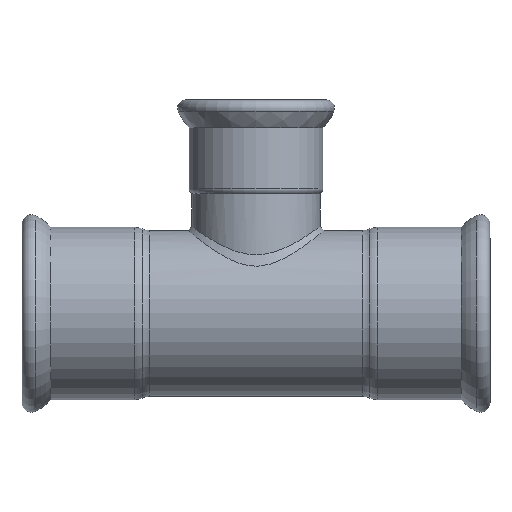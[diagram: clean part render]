
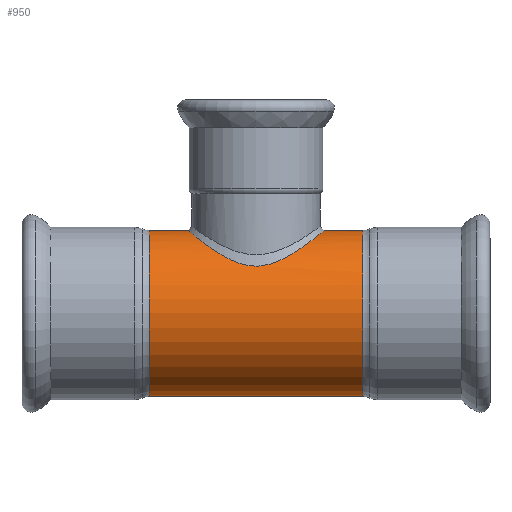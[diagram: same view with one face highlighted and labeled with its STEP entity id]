
A CAD part, front view. The second image highlights one B-rep face of the part: STEP entity #950.
In plain terms, the highlighted cylindrical face has radius 69.85 mm (diameter 139.7 mm), a full revolution.
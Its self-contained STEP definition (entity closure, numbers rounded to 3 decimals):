
#16=FACE_BOUND('',#177,.T.);
#22=B_SPLINE_CURVE_WITH_KNOTS('',3,(#1864,#1865,#1866,#1867,#1868,#1869,
#1870,#1871,#1872,#1873,#1874,#1875,#1876,#1877,#1878,#1879,#1880,#1881,
#1882,#1883,#1884,#1885,#1886,#1887,#1888,#1889,#1890,#1891,#1892,#1893,
#1894,#1895,#1896,#1897,#1898,#1899,#1900,#1901,#1902,#1903,#1904,#1905,
#1906,#1907,#1908,#1909,#1910,#1911,#1912,#1913,#1914,#1915,#1916,#1917,
#1918,#1919,#1920,#1921,#1922,#1923,#1924),.UNSPECIFIED.,.F.,.F.,(4,1,1,
1,2,2,1,1,2,2,2,1,2,2,1,1,2,1,2,1,2,1,1,2,1,2,1,2,1,1,2,2,1,2,2,2,1,1,2,
4),(-0.955,-0.952,-0.944,-0.933,
-0.91,-0.862,-0.839,-0.827,
-0.815,-0.766,-0.718,-0.694,
-0.67,-0.621,-0.597,-0.585,
-0.573,-0.561,-0.525,-0.49,
-0.478,-0.455,-0.444,-0.432,
-0.409,-0.385,-0.349,-0.337,
-0.325,-0.313,-0.29,-0.241,
-0.217,-0.193,-0.144,-0.095,
-0.083,-0.072,-0.048,0.),
 .UNSPECIFIED.);
#23=B_SPLINE_CURVE_WITH_KNOTS('',3,(#1925,#1926,#1927,#1928,#1929,#1930,
#1931),.UNSPECIFIED.,.F.,.F.,(4,3,4),(0.,0.022,0.045),
 .UNSPECIFIED.);
#54=LINE('',#2609,#75);
#75=VECTOR('',#1443,69.85);
#91=CYLINDRICAL_SURFACE('',#1118,69.85);
#131=FACE_OUTER_BOUND('',#176,.T.);
#176=EDGE_LOOP('',(#834,#835,#836,#837,#838,#839,#840,#841));
#177=EDGE_LOOP('',(#842,#843));
#263=CIRCLE('',#1076,69.85);
#264=CIRCLE('',#1077,69.85);
#265=CIRCLE('',#1078,69.85);
#292=CIRCLE('',#1115,69.85);
#293=CIRCLE('',#1116,69.85);
#294=CIRCLE('',#1117,69.85);
#347=VERTEX_POINT('',#1862);
#348=VERTEX_POINT('',#1863);
#386=VERTEX_POINT('',#2536);
#387=VERTEX_POINT('',#2538);
#388=VERTEX_POINT('',#2540);
#409=VERTEX_POINT('',#2601);
#410=VERTEX_POINT('',#2603);
#411=VERTEX_POINT('',#2605);
#470=EDGE_CURVE('',#347,#348,#22,.T.);
#471=EDGE_CURVE('',#348,#347,#23,.T.);
#526=EDGE_CURVE('',#386,#387,#263,.T.);
#527=EDGE_CURVE('',#387,#388,#264,.T.);
#528=EDGE_CURVE('',#388,#386,#265,.T.);
#558=EDGE_CURVE('',#410,#409,#292,.T.);
#559=EDGE_CURVE('',#411,#410,#293,.T.);
#560=EDGE_CURVE('',#409,#411,#294,.T.);
#561=EDGE_CURVE('',#387,#411,#54,.T.);
#834=ORIENTED_EDGE('',*,*,#528,.F.);
#835=ORIENTED_EDGE('',*,*,#527,.F.);
#836=ORIENTED_EDGE('',*,*,#561,.T.);
#837=ORIENTED_EDGE('',*,*,#559,.T.);
#838=ORIENTED_EDGE('',*,*,#558,.T.);
#839=ORIENTED_EDGE('',*,*,#560,.T.);
#840=ORIENTED_EDGE('',*,*,#561,.F.);
#841=ORIENTED_EDGE('',*,*,#526,.F.);
#842=ORIENTED_EDGE('',*,*,#470,.T.);
#843=ORIENTED_EDGE('',*,*,#471,.T.);
#950=ADVANCED_FACE('',(#131,#16),#91,.T.);
#1076=AXIS2_PLACEMENT_3D('',#2539,#1354,#1355);
#1077=AXIS2_PLACEMENT_3D('',#2541,#1356,#1357);
#1078=AXIS2_PLACEMENT_3D('',#2542,#1358,#1359);
#1115=AXIS2_PLACEMENT_3D('',#2604,#1435,#1436);
#1116=AXIS2_PLACEMENT_3D('',#2606,#1437,#1438);
#1117=AXIS2_PLACEMENT_3D('',#2607,#1439,#1440);
#1118=AXIS2_PLACEMENT_3D('',#2608,#1441,#1442);
#1354=DIRECTION('center_axis',(-1.,0.,0.));
#1355=DIRECTION('ref_axis',(0.,0.,-1.));
#1356=DIRECTION('center_axis',(-1.,0.,0.));
#1357=DIRECTION('ref_axis',(0.,0.,-1.));
#1358=DIRECTION('center_axis',(-1.,0.,0.));
#1359=DIRECTION('ref_axis',(0.,0.,-1.));
#1435=DIRECTION('center_axis',(-1.,0.,0.));
#1436=DIRECTION('ref_axis',(0.,0.,-1.));
#1437=DIRECTION('center_axis',(-1.,0.,0.));
#1438=DIRECTION('ref_axis',(0.,0.,-1.));
#1439=DIRECTION('center_axis',(-1.,0.,0.));
#1440=DIRECTION('ref_axis',(0.,0.,-1.));
#1441=DIRECTION('center_axis',(-1.,0.,0.));
#1442=DIRECTION('ref_axis',(0.,1.,0.));
#1443=DIRECTION('',(1.,0.,0.));
#1862=CARTESIAN_POINT('',(0.,-57.363,39.856));
#1863=CARTESIAN_POINT('',(18.172,-54.408,43.804));
#1864=CARTESIAN_POINT('Ctrl Pts',(0.001,-57.364,
39.854));
#1865=CARTESIAN_POINT('Ctrl Pts',(-0.416,-57.364,
39.854));
#1866=CARTESIAN_POINT('Ctrl Pts',(-2.088,-57.345,39.882));
#1867=CARTESIAN_POINT('Ctrl Pts',(-5.388,-57.164,40.141));
#1868=CARTESIAN_POINT('Ctrl Pts',(-11.365,-56.383,41.249));
#1869=CARTESIAN_POINT('Ctrl Pts',(-15.653,-55.25,42.758));
#1870=CARTESIAN_POINT('Ctrl Pts',(-23.554,-52.614,46.038));
#1871=CARTESIAN_POINT('Ctrl Pts',(-28.632,-50.004,48.958));
#1872=CARTESIAN_POINT('Ctrl Pts',(-35.247,-45.337,53.179));
#1873=CARTESIAN_POINT('Ctrl Pts',(-38.384,-42.768,55.306));
#1874=CARTESIAN_POINT('Ctrl Pts',(-42.028,-39.105,57.912));
#1875=CARTESIAN_POINT('Ctrl Pts',(-43.758,-37.115,59.186));
#1876=CARTESIAN_POINT('Ctrl Pts',(-47.985,-31.902,62.338));
#1877=CARTESIAN_POINT('Ctrl Pts',(-50.956,-26.973,64.678));
#1878=CARTESIAN_POINT('Ctrl Pts',(-55.324,-16.25,68.173));
#1879=CARTESIAN_POINT('Ctrl Pts',(-56.751,-10.285,69.349));
#1880=CARTESIAN_POINT('Ctrl Pts',(-57.414,-1.512,69.892));
#1881=CARTESIAN_POINT('Ctrl Pts',(-57.431,4.424,69.906));
#1882=CARTESIAN_POINT('Ctrl Pts',(-56.49,10.389,69.133));
#1883=CARTESIAN_POINT('Ctrl Pts',(-54.469,18.937,67.49));
#1884=CARTESIAN_POINT('Ctrl Pts',(-52.214,24.433,65.662));
#1885=CARTESIAN_POINT('Ctrl Pts',(-47.899,31.684,62.306));
#1886=CARTESIAN_POINT('Ctrl Pts',(-45.518,35.095,60.482));
#1887=CARTESIAN_POINT('Ctrl Pts',(-41.99,39.146,57.884));
#1888=CARTESIAN_POINT('Ctrl Pts',(-40.175,40.966,56.587));
#1889=CARTESIAN_POINT('Ctrl Pts',(-38.28,42.741,55.258));
#1890=CARTESIAN_POINT('Ctrl Pts',(-34.312,46.224,52.523));
#1891=CARTESIAN_POINT('Ctrl Pts',(-29.707,49.243,49.615));
#1892=CARTESIAN_POINT('Ctrl Pts',(-22.427,52.959,45.63));
#1893=CARTESIAN_POINT('Ctrl Pts',(-16.814,55.125,42.954));
#1894=CARTESIAN_POINT('Ctrl Pts',(-10.905,56.336,41.296));
#1895=CARTESIAN_POINT('Ctrl Pts',(-6.592,57.062,40.294));
#1896=CARTESIAN_POINT('Ctrl Pts',(-1.663,57.514,39.636));
#1897=CARTESIAN_POINT('Ctrl Pts',(4.965,57.213,40.073));
#1898=CARTESIAN_POINT('Ctrl Pts',(8.007,56.819,40.629));
#1899=CARTESIAN_POINT('Ctrl Pts',(12.377,56.092,41.633));
#1900=CARTESIAN_POINT('Ctrl Pts',(18.287,54.618,43.623));
#1901=CARTESIAN_POINT('Ctrl Pts',(23.629,52.34,46.292));
#1902=CARTESIAN_POINT('Ctrl Pts',(29.708,49.246,49.616));
#1903=CARTESIAN_POINT('Ctrl Pts',(34.311,46.222,52.524));
#1904=CARTESIAN_POINT('Ctrl Pts',(38.28,42.741,55.258));
#1905=CARTESIAN_POINT('Ctrl Pts',(40.175,40.966,56.587));
#1906=CARTESIAN_POINT('Ctrl Pts',(41.99,39.146,57.884));
#1907=CARTESIAN_POINT('Ctrl Pts',(45.518,35.095,60.482));
#1908=CARTESIAN_POINT('Ctrl Pts',(47.899,31.684,62.306));
#1909=CARTESIAN_POINT('Ctrl Pts',(52.214,24.433,65.662));
#1910=CARTESIAN_POINT('Ctrl Pts',(54.469,18.937,67.49));
#1911=CARTESIAN_POINT('Ctrl Pts',(56.49,10.389,69.133));
#1912=CARTESIAN_POINT('Ctrl Pts',(57.431,4.424,69.906));
#1913=CARTESIAN_POINT('Ctrl Pts',(57.414,-1.512,69.892));
#1914=CARTESIAN_POINT('Ctrl Pts',(56.751,-10.285,69.349));
#1915=CARTESIAN_POINT('Ctrl Pts',(55.324,-16.25,68.173));
#1916=CARTESIAN_POINT('Ctrl Pts',(50.956,-26.973,64.678));
#1917=CARTESIAN_POINT('Ctrl Pts',(47.985,-31.902,62.338));
#1918=CARTESIAN_POINT('Ctrl Pts',(43.758,-37.115,59.186));
#1919=CARTESIAN_POINT('Ctrl Pts',(42.028,-39.104,57.912));
#1920=CARTESIAN_POINT('Ctrl Pts',(38.384,-42.768,55.306));
#1921=CARTESIAN_POINT('Ctrl Pts',(35.247,-45.336,53.179));
#1922=CARTESIAN_POINT('Ctrl Pts',(28.632,-50.005,48.958));
#1923=CARTESIAN_POINT('Ctrl Pts',(23.554,-52.611,46.036));
#1924=CARTESIAN_POINT('Ctrl Pts',(18.172,-54.408,43.804));
#1925=CARTESIAN_POINT('Ctrl Pts',(18.172,-54.408,43.804));
#1926=CARTESIAN_POINT('Ctrl Pts',(15.653,-55.25,42.758));
#1927=CARTESIAN_POINT('Ctrl Pts',(12.796,-56.006,41.748));
#1928=CARTESIAN_POINT('Ctrl Pts',(9.717,-56.535,41.021));
#1929=CARTESIAN_POINT('Ctrl Pts',(6.639,-57.063,40.295));
#1930=CARTESIAN_POINT('Ctrl Pts',(3.34,-57.364,39.854));
#1931=CARTESIAN_POINT('Ctrl Pts',(0.001,-57.364,
39.854));
#2536=CARTESIAN_POINT('',(-89.672,0.,-69.85));
#2538=CARTESIAN_POINT('',(-89.672,-69.85,0.));
#2539=CARTESIAN_POINT('Origin',(-89.672,0.,0.));
#2540=CARTESIAN_POINT('',(-89.672,69.85,0.));
#2541=CARTESIAN_POINT('Origin',(-89.672,0.,0.));
#2542=CARTESIAN_POINT('Origin',(-89.672,0.,0.));
#2601=CARTESIAN_POINT('',(89.672,0.,-69.85));
#2603=CARTESIAN_POINT('',(89.672,69.85,0.));
#2604=CARTESIAN_POINT('Origin',(89.672,0.,0.));
#2605=CARTESIAN_POINT('',(89.672,-69.85,0.));
#2606=CARTESIAN_POINT('Origin',(89.672,0.,0.));
#2607=CARTESIAN_POINT('Origin',(89.672,0.,0.));
#2608=CARTESIAN_POINT('Origin',(79.836,0.,0.));
#2609=CARTESIAN_POINT('',(79.836,-69.85,0.));
